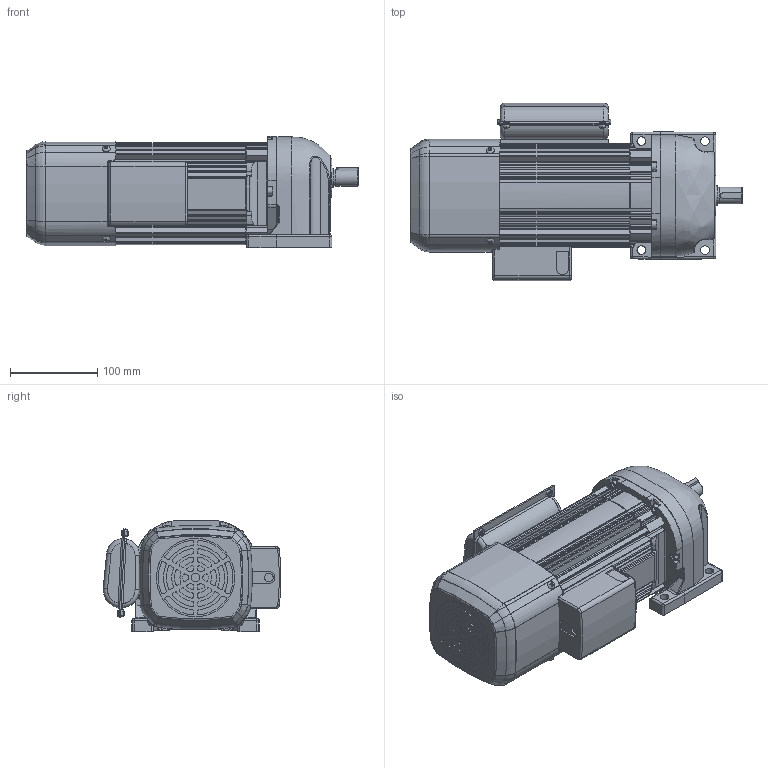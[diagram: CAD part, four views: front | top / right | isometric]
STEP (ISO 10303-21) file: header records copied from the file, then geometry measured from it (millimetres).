
FILE_DESCRIPTION( ( 'Unknown' ), '1' );
FILE_NAME( 'W:/gm/3D-WEB/GM-SS(単相)/完成品/パーツ/完成品/完成品(GM-SS_脚取付_0.4kW_ﾌﾞﾚｰｷ付き_B).stp', 'Unknown', ( 'Unknown' ), ( 'Unknown' ), 'PSStep 11.0', 'Unknown', ' ' );
FILE_SCHEMA( ( 'AUTOMOTIVE_DESIGN { 1 0 10303 214 1 1 1 1 }' ) );
Length unit declared in the file: millimetre
Products named in the file (4): 六角穴付ボルト
Bounding box: 381 x 203.87 x 127.74 mm (x, y, z)
Volume: 3322100.4 mm3; surface area: 502242.1 mm2
Topology: 4 solids, 29 shells, 1779 faces, 4542 edges, 2901 vertices
Faces by surface type: plane 764, cylinder 752, torus 90, bspline 78, cone 77, sphere 18
Full cylindrical faces by diameter (mm): 3.3 x6, 3.8 x8, 4 x4, 4.134 x8, 4.5 x7, 4.8 x10, 4.917 x1, 5 x9, 5.5 x6, 6 x4, 6.2 x1, 6.5 x2, 7 x4, 8.5 x6, 10 x6, 12 x1, 14 x1, 15 x1, 15.1 x1, 16 x2, 17.5 x1, 18.7 x1, 19 x1, 20 x2, 21.7 x1, 22 x1, 22.049 x1, 24.1 x1, 24.7 x1, 25 x1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
Entity records: 76231 total; most frequent: CARTESIAN_POINT 19204, DIRECTION 9181, ORIENTED_EDGE 8566, EDGE_CURVE 4283, AXIS2_PLACEMENT_3D 3546, VERTEX_POINT 2824, LINE 2089, VECTOR 2089
